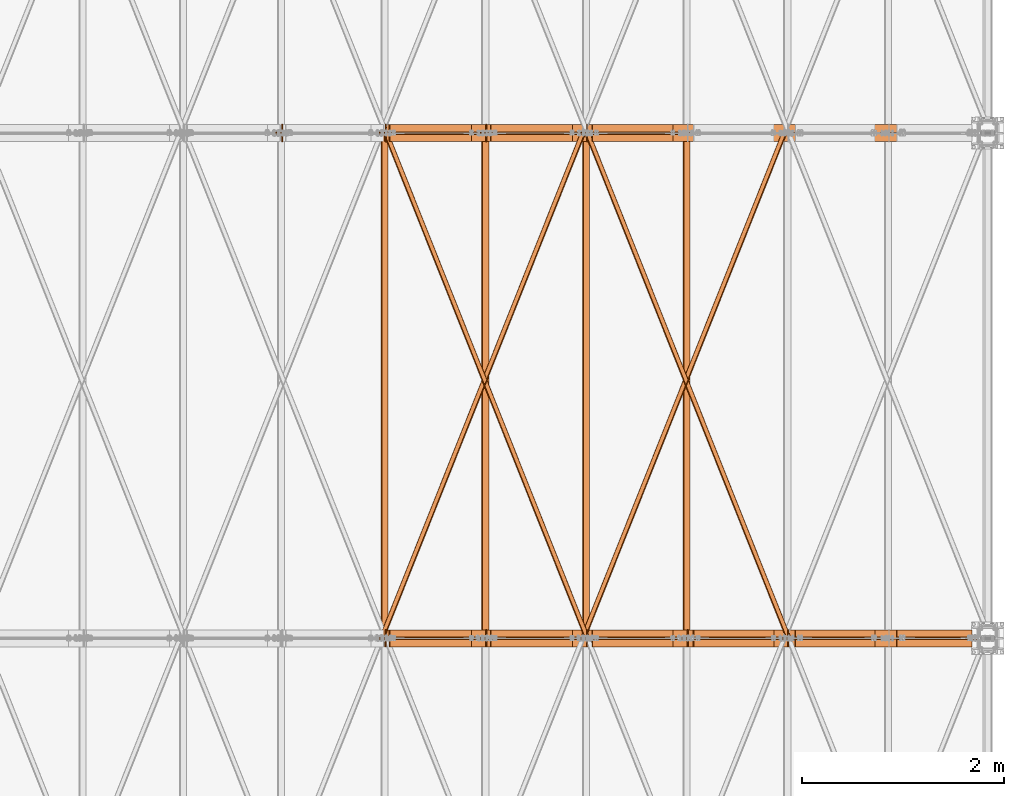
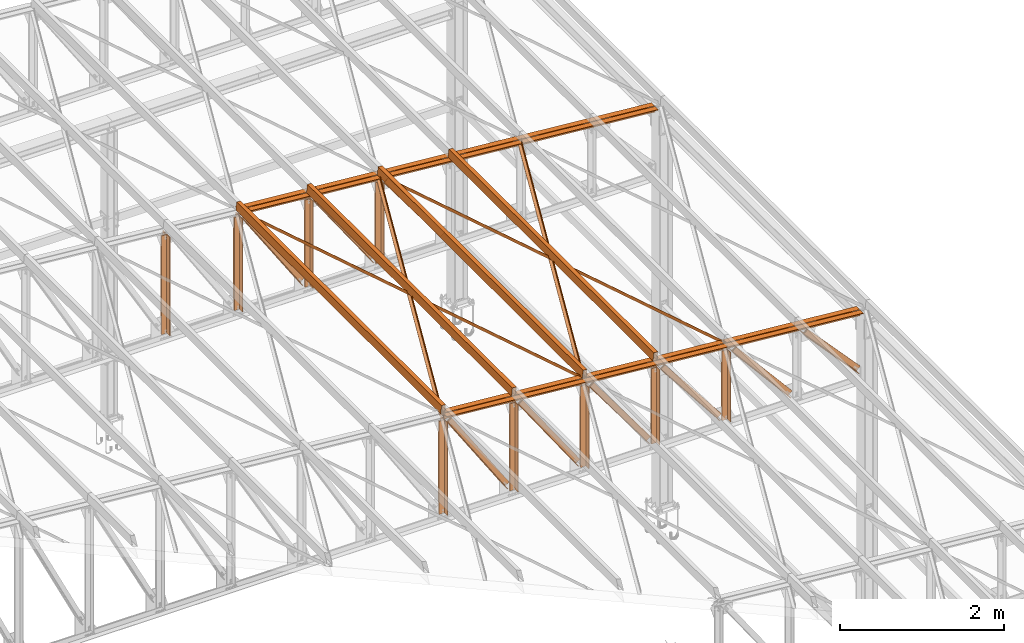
# One storey, part 241 of 251: 48 proxies.
"""IFC4 building model written with IfcOpenShell, lengths in metres."""

from ifc_helpers import new_model, si_unit, frame, frame_2d, origin_with_axes, origin_2d_with_axis, place, context, project, spatial, polyline, hollow_rectangle, i_section, l_section, outline, extrude, material, material_profile, profile_set, profile_usage, type_object, element, save


model = new_model("IFC4")

# Units and contexts
model_context = context("Model", 3, precision=1e-05, world=origin_with_axes())
ifc_project = project(units=[si_unit("LENGTHUNIT", "METRE"), si_unit("AREAUNIT", "SQUARE_METRE"), si_unit("VOLUMEUNIT", "CUBIC_METRE"), si_unit("MASSUNIT", "GRAM", prefix="KILO"), si_unit("TIMEUNIT", "SECOND"), si_unit("PLANEANGLEUNIT", "RADIAN"), si_unit("SOLIDANGLEUNIT", "STERADIAN"), si_unit("THERMODYNAMICTEMPERATUREUNIT", "DEGREE_CELSIUS")], contexts=[model_context])

# Site, building, storey
placement_1 = place(None, origin_with_axes())
site = spatial("IfcSite", under=ifc_project, at=placement_1, Name="Italia", CompositionType="ELEMENT")
building = spatial("IfcBuilding", under=site, at=placement_1, Name="Deposito", CompositionType="ELEMENT")
storey = spatial("IfcBuildingStorey", under=building, at=placement_1, Name="Storey 0", CompositionType="ELEMENT", Elevation=0.0)

# Proxies
ifc_material = material(Name="Acciaio", Category="Acciaio")
ifc_material_profile = material_profile(ifc_material, i_section(OverallWidth=0.2, OverallDepth=0.19, WebThickness=0.006, FlangeThickness=0.01, FilletRadius=0.018, at=origin_2d_with_axis()), Name="7 PILASTRO HEA200")
ifc_profile_set = profile_set([ifc_material_profile])
ifc_profile_usage_1 = profile_usage(ifc_profile_set, cardinal=2)
member_type_1 = type_object("IfcMemberType", Name="5 2L80x8", PredefinedType="MEMBER", material=ifc_profile_usage_1)
placement_2 = place(placement_1, origin_with_axes())
proxy_1_placement = place(placement_2, origin_with_axes())
element("IfcBuildingElementProxy", 1, at=proxy_1_placement, inside=storey, type_object=member_type_1, Name="230073", context=model_context, shape_type="SweptSolid", body=[
    extrude(outline(polyline([(0.0, 0.0), (0.0799999, 0.0), (0.0799999, -0.00800085), (0.00799942, -0.00800085), (0.00799942, -0.0800004), (0.0, -0.0800004), (0.0, 0.0)])), frame((14.0298, 10.005, 6.54493), z_axis=(0.99619472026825, 0.0, -0.087155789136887), x_axis=(0.0, 1.0, 0.0)), (0.0, 0.0, 1.0), 5.89033),
])
ifc_profile_usage_2 = profile_usage(ifc_profile_set, cardinal=2)
member_type_2 = type_object("IfcMemberType", Name="5 2L80x8", PredefinedType="MEMBER", material=ifc_profile_usage_2)
proxy_2_placement = place(placement_2, origin_with_axes())
element("IfcBuildingElementProxy", 2, at=proxy_2_placement, inside=storey, type_object=member_type_2, Name="230073", context=model_context, shape_type="SweptSolid", body=[
    extrude(outline(polyline([(0.0, 0.0), (-0.00799942, 0.0), (-0.00799942, 0.0719995), (-0.0799999, 0.0719995), (-0.0799999, 0.0800004), (0.0, 0.0800004), (0.0, 0.0)])), frame((14.0228, 9.995, 6.46523), z_axis=(0.99619472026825, 0.0, -0.087155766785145), x_axis=(0.0, 1.0, 0.0)), (0.0, 0.0, 1.0), 5.89033),
])
ifc_profile_usage_3 = profile_usage(ifc_profile_set, cardinal=1)
member_type_3 = type_object("IfcMemberType", Name="5 2L80x8", PredefinedType="MEMBER", material=ifc_profile_usage_3)
proxy_3_placement = place(placement_2, origin_with_axes())
element("IfcBuildingElementProxy", 3, at=proxy_3_placement, inside=storey, type_object=member_type_3, Name="100003", context=model_context, shape_type="SweptSolid", body=[
    extrude(outline(polyline([(0.0, 0.0), (-0.0799999, 0.0), (-0.0799999, 0.00799942), (-0.00799942, 0.00799942), (-0.00799942, 0.079998), (0.0, 0.079998), (0.0, 0.0)])), frame((19.0971, 9.995, 5.95199), z_axis=(0.675589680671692, 0.0, -0.737277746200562), x_axis=(0.0, 1.0, 0.0)), (0.0, 0.0, 1.0), 1.09364),
])
ifc_profile_usage_4 = profile_usage(ifc_profile_set, cardinal=1)
member_type_4 = type_object("IfcMemberType", Name="5 2L80x8", PredefinedType="MEMBER", material=ifc_profile_usage_4)
proxy_4_placement = place(placement_2, origin_with_axes())
element("IfcBuildingElementProxy", 4, at=proxy_4_placement, inside=storey, type_object=member_type_4, Name="100003", context=model_context, shape_type="SweptSolid", body=[
    extrude(outline(polyline([(0.0, 0.0), (0.00799942, 0.0), (0.00799942, -0.0719986), (0.0799999, -0.0719986), (0.0799999, -0.0799999), (0.0, -0.0799999), (0.0, 0.0)])), frame((19.1561, 10.005, 6.00604), z_axis=(0.675590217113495, 0.0, -0.737277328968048), x_axis=(0.0, 1.0, 0.0)), (0.0, 0.0, 1.0), 1.09364),
])
ifc_profile_usage_5 = profile_usage(ifc_profile_set, cardinal=1)
member_type_5 = type_object("IfcMemberType", Name="5 2L80x8", PredefinedType="MEMBER", material=ifc_profile_usage_5)
proxy_5_placement = place(placement_2, origin_with_axes())
element("IfcBuildingElementProxy", 5, at=proxy_5_placement, inside=storey, type_object=member_type_5, Name="110003", context=model_context, shape_type="SweptSolid", body=[
    extrude(outline(polyline([(0.0, 0.0), (-0.0799999, 0.0), (-0.0799999, 0.00799942), (-0.00799942, 0.00799942), (-0.00799942, 0.079998), (0.0, 0.079998), (0.0, 0.0)])), frame((18.0901, 9.995, 6.04221), z_axis=(0.646905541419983, 0.0, -0.762570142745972), x_axis=(0.0, 1.0, 0.0)), (0.0, 0.0, 1.0), 1.21365),
])
ifc_profile_usage_6 = profile_usage(ifc_profile_set, cardinal=1)
member_type_6 = type_object("IfcMemberType", Name="5 2L80x8", PredefinedType="MEMBER", material=ifc_profile_usage_6)
proxy_6_placement = place(placement_2, origin_with_axes())
element("IfcBuildingElementProxy", 6, at=proxy_6_placement, inside=storey, type_object=member_type_6, Name="110003", context=model_context, shape_type="SweptSolid", body=[
    extrude(outline(polyline([(0.0, 0.0), (0.00799942, 0.0), (0.00799942, -0.0720005), (0.0799999, -0.0720005), (0.0799999, -0.0799999), (0.0, -0.0799999), (0.0, 0.0)])), frame((18.1512, 10.005, 6.09396), z_axis=(0.646905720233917, 0.0, -0.762569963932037), x_axis=(0.0, 1.0, 0.0)), (0.0, 0.0, 1.0), 1.21365),
])
ifc_profile_usage_7 = profile_usage(ifc_profile_set, cardinal=1)
member_type_7 = type_object("IfcMemberType", Name="5 2L80x8", PredefinedType="MEMBER", material=ifc_profile_usage_7)
proxy_7_placement = place(placement_2, origin_with_axes())
element("IfcBuildingElementProxy", 7, at=proxy_7_placement, inside=storey, type_object=member_type_7, Name="45", context=model_context, shape_type="SweptSolid", body=[
    extrude(outline(polyline([(0.0, 0.0), (-0.0799999, 0.0), (-0.0799999, 0.00799942), (-0.00799942, 0.00799942), (-0.00799942, 0.0799999), (0.0, 0.0799999), (0.0, 0.0)])), frame((18.0301, 9.995, 5.06753), z_axis=(0.0, 0.0, 1.0), x_axis=(0.0, 1.0, 0.0)), (0.0, 0.0, 1.0), 1.03702),
])
ifc_profile_usage_8 = profile_usage(ifc_profile_set, cardinal=1)
member_type_8 = type_object("IfcMemberType", Name="5 2L80x8", PredefinedType="MEMBER", material=ifc_profile_usage_8)
proxy_8_placement = place(placement_2, origin_with_axes())
element("IfcBuildingElementProxy", 8, at=proxy_8_placement, inside=storey, type_object=member_type_8, Name="45", context=model_context, shape_type="SweptSolid", body=[
    extrude(outline(polyline([(0.0, 0.0), (0.00799942, 0.0), (0.00799942, -0.0720005), (0.0799999, -0.0720005), (0.0799999, -0.0799999), (0.0, -0.0799999), (0.0, 0.0)])), frame((17.9501, 10.005, 5.06753), z_axis=(0.0, 0.0, 1.0), x_axis=(0.0, 1.0, 0.0)), (0.0, 0.0, 1.0), 1.03702),
])
ifc_profile_usage_9 = profile_usage(ifc_profile_set, cardinal=1)
member_type_9 = type_object("IfcMemberType", Name="5 2L80x8", PredefinedType="MEMBER", material=ifc_profile_usage_9)
proxy_9_placement = place(placement_2, origin_with_axes())
element("IfcBuildingElementProxy", 9, at=proxy_9_placement, inside=storey, type_object=member_type_9, Name="120003", context=model_context, shape_type="SweptSolid", body=[
    extrude(outline(polyline([(0.0, 0.0), (-0.0799999, 0.0), (-0.0799999, 0.00799942), (-0.00799942, 0.00799942), (-0.00799942, 0.0799999), (0.0, 0.0799999), (0.0, 0.0)])), frame((17.0848, 9.995, 6.13218), z_axis=(0.619758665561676, 0.0, -0.784792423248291), x_axis=(0.0, 1.0, 0.0)), (0.0, 0.0, 1.0), 1.27867),
])
ifc_profile_usage_10 = profile_usage(ifc_profile_set, cardinal=1)
member_type_10 = type_object("IfcMemberType", Name="5 2L80x8", PredefinedType="MEMBER", material=ifc_profile_usage_10)
proxy_10_placement = place(placement_2, origin_with_axes())
element("IfcBuildingElementProxy", 10, at=proxy_10_placement, inside=storey, type_object=member_type_10, Name="120003", context=model_context, shape_type="SweptSolid", body=[
    extrude(outline(polyline([(0.0, 0.0), (0.00799942, 0.0), (0.00799942, -0.0720005), (0.0799999, -0.0720005), (0.0799999, -0.0799999), (0.0, -0.0799999), (0.0, 0.0)])), frame((17.1476, 10.005, 6.18176), z_axis=(0.619759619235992, 0.0, -0.784791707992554), x_axis=(0.0, 1.0, 0.0)), (0.0, 0.0, 1.0), 1.27867),
])
ifc_profile_usage_11 = profile_usage(ifc_profile_set, cardinal=1)
member_type_11 = type_object("IfcMemberType", Name="5 2L80x8", PredefinedType="MEMBER", material=ifc_profile_usage_11)
proxy_11_placement = place(placement_2, origin_with_axes())
element("IfcBuildingElementProxy", 11, at=proxy_11_placement, inside=storey, type_object=member_type_11, Name="44", context=model_context, shape_type="SweptSolid", body=[
    extrude(outline(polyline([(0.0, 0.0), (-0.0799999, 0.0), (-0.0799999, 0.00799942), (-0.00799942, 0.00799942), (-0.00799942, 0.0799999), (0.0, 0.0799999), (0.0, 0.0)])), frame((17.0339, 9.995, 5.06753), z_axis=(0.0, 0.0, 1.0), x_axis=(0.0, 1.0, 0.0)), (0.0, 0.0, 1.0), 1.12417),
])
ifc_profile_usage_12 = profile_usage(ifc_profile_set, cardinal=1)
member_type_12 = type_object("IfcMemberType", Name="5 2L80x8", PredefinedType="MEMBER", material=ifc_profile_usage_12)
proxy_12_placement = place(placement_2, origin_with_axes())
element("IfcBuildingElementProxy", 12, at=proxy_12_placement, inside=storey, type_object=member_type_12, Name="44", context=model_context, shape_type="SweptSolid", body=[
    extrude(outline(polyline([(0.0, 0.0), (0.00799942, 0.0), (0.00799942, -0.0720005), (0.0799999, -0.0720005), (0.0799999, -0.0799999), (0.0, -0.0799999), (0.0, 0.0)])), frame((16.9539, 10.005, 5.06753), z_axis=(0.0, 0.0, 1.0), x_axis=(0.0, 1.0, 0.0)), (0.0, 0.0, 1.0), 1.12417),
])
ifc_profile_usage_13 = profile_usage(ifc_profile_set, cardinal=1)
member_type_13 = type_object("IfcMemberType", Name="5 2L80x8", PredefinedType="MEMBER", material=ifc_profile_usage_13)
proxy_13_placement = place(placement_2, origin_with_axes())
element("IfcBuildingElementProxy", 13, at=proxy_13_placement, inside=storey, type_object=member_type_13, Name="130003", context=model_context, shape_type="SweptSolid", body=[
    extrude(outline(polyline([(0.0, 0.0), (-0.0799999, 0.0), (-0.0799999, 0.00800133), (-0.00799942, 0.00800133), (-0.00799942, 0.0800018), (0.0, 0.0800018), (0.0, 0.0)])), frame((16.0808, 9.995, 6.22193), z_axis=(0.594154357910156, 0.0, -0.804351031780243), x_axis=(0.0, 1.0, 0.0)), (0.0, 0.0, 1.0), 1.3443),
])
ifc_profile_usage_14 = profile_usage(ifc_profile_set, cardinal=1)
member_type_14 = type_object("IfcMemberType", Name="5 2L80x8", PredefinedType="MEMBER", material=ifc_profile_usage_14)
proxy_14_placement = place(placement_2, origin_with_axes())
element("IfcBuildingElementProxy", 14, at=proxy_14_placement, inside=storey, type_object=member_type_14, Name="130003", context=model_context, shape_type="SweptSolid", body=[
    extrude(outline(polyline([(0.0, 0.0), (0.00799942, 0.0), (0.00799942, -0.0720005), (0.0799999, -0.0720005), (0.0799999, -0.0799999), (0.0, -0.0799999), (0.0, 0.0)])), frame((16.1452, 10.005, 6.26946), z_axis=(0.594154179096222, 0.0, -0.804351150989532), x_axis=(0.0, 1.0, 0.0)), (0.0, 0.0, 1.0), 1.3443),
])
ifc_profile_usage_15 = profile_usage(ifc_profile_set, cardinal=1)
member_type_15 = type_object("IfcMemberType", Name="5 2L80x8", PredefinedType="MEMBER", material=ifc_profile_usage_15)
proxy_15_placement = place(placement_2, origin_with_axes())
element("IfcBuildingElementProxy", 15, at=proxy_15_placement, inside=storey, type_object=member_type_15, Name="43", context=model_context, shape_type="SweptSolid", body=[
    extrude(outline(polyline([(0.0, 0.0), (-0.0799999, 0.0), (-0.0799999, 0.00799942), (-0.00799942, 0.00799942), (-0.00799942, 0.079999), (0.0, 0.079999), (0.0, 0.0)])), frame((16.0377, 9.995, 5.06753), z_axis=(0.0, 0.0, 1.0), x_axis=(0.0, 1.0, 0.0)), (0.0, 0.0, 1.0), 1.21133),
])
ifc_profile_usage_16 = profile_usage(ifc_profile_set, cardinal=1)
member_type_16 = type_object("IfcMemberType", Name="5 2L80x8", PredefinedType="MEMBER", material=ifc_profile_usage_16)
proxy_16_placement = place(placement_2, origin_with_axes())
element("IfcBuildingElementProxy", 16, at=proxy_16_placement, inside=storey, type_object=member_type_16, Name="43", context=model_context, shape_type="SweptSolid", body=[
    extrude(outline(polyline([(0.0, 0.0), (0.00799942, 0.0), (0.00799942, -0.0719995), (0.0799999, -0.0719995), (0.0799999, -0.079999), (0.0, -0.079999), (0.0, 0.0)])), frame((15.9577, 10.005, 5.06753), z_axis=(0.0, 0.0, 1.0), x_axis=(0.0, 1.0, 0.0)), (0.0, 0.0, 1.0), 1.21133),
])
ifc_profile_usage_17 = profile_usage(ifc_profile_set, cardinal=1)
member_type_17 = type_object("IfcMemberType", Name="5 2L80x8", PredefinedType="MEMBER", material=ifc_profile_usage_17)
proxy_17_placement = place(placement_2, origin_with_axes())
element("IfcBuildingElementProxy", 17, at=proxy_17_placement, inside=storey, type_object=member_type_17, Name="140003", context=model_context, shape_type="SweptSolid", body=[
    extrude(outline(polyline([(0.0, 0.0), (-0.0799999, 0.0), (-0.0799999, 0.00800037), (-0.00799942, 0.00800037), (-0.00799942, 0.0800018), (0.0, 0.0800018), (0.0, 0.0)])), frame((15.0779, 9.995, 6.31149), z_axis=(0.570057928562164, 0.0, -0.821604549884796), x_axis=(0.0, 1.0, 0.0)), (0.0, 0.0, 1.0), 1.41056),
])
ifc_profile_usage_18 = profile_usage(ifc_profile_set, cardinal=1)
member_type_18 = type_object("IfcMemberType", Name="5 2L80x8", PredefinedType="MEMBER", material=ifc_profile_usage_18)
proxy_18_placement = place(placement_2, origin_with_axes())
element("IfcBuildingElementProxy", 18, at=proxy_18_placement, inside=storey, type_object=member_type_18, Name="140003", context=model_context, shape_type="SweptSolid", body=[
    extrude(outline(polyline([(0.0, 0.0), (0.00799942, 0.0), (0.00799942, -0.0720024), (0.0799999, -0.0720024), (0.0799999, -0.0800018), (0.0, -0.0800018), (0.0, 0.0)])), frame((15.1436, 10.005, 6.35709), z_axis=(0.570057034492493, 0.0, -0.821605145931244), x_axis=(0.0, 1.0, 0.0)), (0.0, 0.0, 1.0), 1.41056),
])
ifc_profile_usage_19 = profile_usage(ifc_profile_set, cardinal=1)
member_type_19 = type_object("IfcMemberType", Name="5 2L80x8", PredefinedType="MEMBER", material=ifc_profile_usage_19)
proxy_19_placement = place(placement_2, origin_with_axes())
element("IfcBuildingElementProxy", 19, at=proxy_19_placement, inside=storey, type_object=member_type_19, Name="42", context=model_context, shape_type="SweptSolid", body=[
    extrude(outline(polyline([(0.0, 0.0), (-0.0799999, 0.0), (-0.0799999, 0.00800037), (-0.00799942, 0.00800037), (-0.00799942, 0.0799999), (0.0, 0.0799999), (0.0, 0.0)])), frame((15.0415, 9.995, 5.06753), z_axis=(0.0, 0.0, 1.0), x_axis=(0.0, 1.0, 0.0)), (0.0, 0.0, 1.0), 1.29848),
])
ifc_profile_usage_20 = profile_usage(ifc_profile_set, cardinal=1)
member_type_20 = type_object("IfcMemberType", Name="5 2L80x8", PredefinedType="MEMBER", material=ifc_profile_usage_20)
proxy_20_placement = place(placement_2, origin_with_axes())
element("IfcBuildingElementProxy", 20, at=proxy_20_placement, inside=storey, type_object=member_type_20, Name="42", context=model_context, shape_type="SweptSolid", body=[
    extrude(outline(polyline([(0.0, 0.0), (0.00799942, 0.0), (0.00799942, -0.0719995), (0.0799999, -0.0719995), (0.0799999, -0.0799999), (0.0, -0.0799999), (0.0, 0.0)])), frame((14.9615, 10.005, 5.06753), z_axis=(0.0, 0.0, 1.0), x_axis=(0.0, 1.0, 0.0)), (0.0, 0.0, 1.0), 1.29848),
])
ifc_profile_usage_21 = profile_usage(ifc_profile_set, cardinal=1)
member_type_21 = type_object("IfcMemberType", Name="5 2L80x8", PredefinedType="MEMBER", material=ifc_profile_usage_21)
proxy_21_placement = place(placement_2, origin_with_axes())
element("IfcBuildingElementProxy", 21, at=proxy_21_placement, inside=storey, type_object=member_type_21, Name="150003", context=model_context, shape_type="SweptSolid", body=[
    extrude(outline(polyline([(0.0, 0.0), (-0.0799999, 0.0), (-0.0799999, 0.00800037), (-0.00799942, 0.00800037), (-0.00799942, 0.0800018), (0.0, 0.0800018), (0.0, 0.0)])), frame((14.0758, 9.995, 6.40086), z_axis=(0.547415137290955, 0.0, -0.836861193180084), x_axis=(0.0, 1.0, 0.0)), (0.0, 0.0, 1.0), 1.47743),
])
ifc_profile_usage_22 = profile_usage(ifc_profile_set, cardinal=1)
member_type_22 = type_object("IfcMemberType", Name="5 2L80x8", PredefinedType="MEMBER", material=ifc_profile_usage_22)
proxy_22_placement = place(placement_2, origin_with_axes())
element("IfcBuildingElementProxy", 22, at=proxy_22_placement, inside=storey, type_object=member_type_22, Name="150003", context=model_context, shape_type="SweptSolid", body=[
    extrude(outline(polyline([(0.0, 0.0), (0.00799942, 0.0), (0.00799942, -0.0720005), (0.0799999, -0.0720005), (0.0799999, -0.0800009), (0.0, -0.0800009), (0.0, 0.0)])), frame((14.1427, 10.005, 6.44465), z_axis=(0.547414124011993, 0.0, -0.836861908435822), x_axis=(0.0, 1.0, 0.0)), (0.0, 0.0, 1.0), 1.47743),
])
ifc_profile_usage_23 = profile_usage(ifc_profile_set, cardinal=1)
member_type_23 = type_object("IfcMemberType", Name="5 2L80x8", PredefinedType="MEMBER", material=ifc_profile_usage_23)
proxy_23_placement = place(placement_2, origin_with_axes())
element("IfcBuildingElementProxy", 23, at=proxy_23_placement, inside=storey, type_object=member_type_23, Name="41", context=model_context, shape_type="SweptSolid", body=[
    extrude(outline(polyline([(0.0, 0.0), (-0.0799999, 0.0), (-0.0799999, 0.00800037), (-0.00799942, 0.00800037), (-0.00799942, 0.0799999), (0.0, 0.0799999), (0.0, 0.0)])), frame((14.0453, 9.995, 5.06753), z_axis=(0.0, 0.0, 1.0), x_axis=(0.0, 1.0, 0.0)), (0.0, 0.0, 1.0), 1.38564),
])
ifc_profile_usage_24 = profile_usage(ifc_profile_set, cardinal=1)
member_type_24 = type_object("IfcMemberType", Name="5 2L80x8", PredefinedType="MEMBER", material=ifc_profile_usage_24)
proxy_24_placement = place(placement_2, origin_with_axes())
element("IfcBuildingElementProxy", 24, at=proxy_24_placement, inside=storey, type_object=member_type_24, Name="41", context=model_context, shape_type="SweptSolid", body=[
    extrude(outline(polyline([(0.0, 0.0), (0.00799942, 0.0), (0.00799942, -0.0719995), (0.0799999, -0.0719995), (0.0799999, -0.0799999), (0.0, -0.0799999), (0.0, 0.0)])), frame((13.9653, 10.005, 5.06753), z_axis=(0.0, 0.0, 1.0), x_axis=(0.0, 1.0, 0.0)), (0.0, 0.0, 1.0), 1.38564),
])
ifc_profile_usage_25 = profile_usage(ifc_profile_set, cardinal=2)
member_type_25 = type_object("IfcMemberType", Name="5 2L80x8", PredefinedType="MEMBER", material=ifc_profile_usage_25)
proxy_25_placement = place(placement_2, origin_with_axes())
element("IfcBuildingElementProxy", 25, at=proxy_25_placement, inside=storey, type_object=member_type_25, Name="230074", context=model_context, shape_type="SweptSolid", body=[
    extrude(outline(polyline([(0.0, 0.0), (0.0799999, 0.0), (0.0799999, -0.00800085), (0.00799942, -0.00800085), (0.00799942, -0.0800004), (0.0, -0.0800004), (0.0, 0.0)])), frame((14.0298, 15.005, 6.54493), z_axis=(0.99619472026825, 0.0, -0.087155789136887), x_axis=(0.0, 1.0, 0.0)), (0.0, 0.0, 1.0), 5.89033),
])
ifc_profile_usage_26 = profile_usage(ifc_profile_set, cardinal=2)
member_type_26 = type_object("IfcMemberType", Name="5 2L80x8", PredefinedType="MEMBER", material=ifc_profile_usage_26)
proxy_26_placement = place(placement_2, origin_with_axes())
element("IfcBuildingElementProxy", 26, at=proxy_26_placement, inside=storey, type_object=member_type_26, Name="230074", context=model_context, shape_type="SweptSolid", body=[
    extrude(outline(polyline([(0.0, 0.0), (-0.00799942, 0.0), (-0.00799942, 0.0719995), (-0.0799999, 0.0719995), (-0.0799999, 0.0800004), (0.0, 0.0800004), (0.0, 0.0)])), frame((14.0228, 14.995, 6.46523), z_axis=(0.99619472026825, 0.0, -0.087155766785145), x_axis=(0.0, 1.0, 0.0)), (0.0, 0.0, 1.0), 5.89033),
])
ifc_profile_usage_27 = profile_usage(ifc_profile_set, cardinal=1)
member_type_27 = type_object("IfcMemberType", Name="5 2L80x8", PredefinedType="MEMBER", material=ifc_profile_usage_27)
proxy_27_placement = place(placement_2, origin_with_axes())
element("IfcBuildingElementProxy", 27, at=proxy_27_placement, inside=storey, type_object=member_type_27, Name="130004", context=model_context, shape_type="SweptSolid", body=[
    extrude(outline(polyline([(0.0, 0.0), (-0.0799999, 0.0), (-0.0799999, 0.00800133), (-0.00799942, 0.00800133), (-0.00799942, 0.0800018), (0.0, 0.0800018), (0.0, 0.0)])), frame((16.0808, 14.995, 6.22193), z_axis=(0.594154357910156, 0.0, -0.804351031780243), x_axis=(0.0, 1.0, 0.0)), (0.0, 0.0, 1.0), 1.3443),
])
ifc_profile_usage_28 = profile_usage(ifc_profile_set, cardinal=1)
member_type_28 = type_object("IfcMemberType", Name="5 2L80x8", PredefinedType="MEMBER", material=ifc_profile_usage_28)
proxy_28_placement = place(placement_2, origin_with_axes())
element("IfcBuildingElementProxy", 28, at=proxy_28_placement, inside=storey, type_object=member_type_28, Name="130004", context=model_context, shape_type="SweptSolid", body=[
    extrude(outline(polyline([(0.0, 0.0), (0.00799942, 0.0), (0.00799942, -0.0720005), (0.0799999, -0.0720005), (0.0799999, -0.0799999), (0.0, -0.0799999), (0.0, 0.0)])), frame((16.1452, 15.005, 6.26946), z_axis=(0.594154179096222, 0.0, -0.804351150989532), x_axis=(0.0, 1.0, 0.0)), (0.0, 0.0, 1.0), 1.3443),
])
ifc_profile_usage_29 = profile_usage(ifc_profile_set, cardinal=1)
member_type_29 = type_object("IfcMemberType", Name="5 2L80x8", PredefinedType="MEMBER", material=ifc_profile_usage_29)
proxy_29_placement = place(placement_2, origin_with_axes())
element("IfcBuildingElementProxy", 29, at=proxy_29_placement, inside=storey, type_object=member_type_29, Name="58", context=model_context, shape_type="SweptSolid", body=[
    extrude(outline(polyline([(0.0, 0.0), (-0.0799999, 0.0), (-0.0799999, 0.00799942), (-0.00799942, 0.00799942), (-0.00799942, 0.079999), (0.0, 0.079999), (0.0, 0.0)])), frame((16.0377, 14.995, 5.06753), z_axis=(0.0, 0.0, 1.0), x_axis=(0.0, 1.0, 0.0)), (0.0, 0.0, 1.0), 1.21133),
])
ifc_profile_usage_30 = profile_usage(ifc_profile_set, cardinal=1)
member_type_30 = type_object("IfcMemberType", Name="5 2L80x8", PredefinedType="MEMBER", material=ifc_profile_usage_30)
proxy_30_placement = place(placement_2, origin_with_axes())
element("IfcBuildingElementProxy", 30, at=proxy_30_placement, inside=storey, type_object=member_type_30, Name="58", context=model_context, shape_type="SweptSolid", body=[
    extrude(outline(polyline([(0.0, 0.0), (0.00799942, 0.0), (0.00799942, -0.0719995), (0.0799999, -0.0719995), (0.0799999, -0.079999), (0.0, -0.079999), (0.0, 0.0)])), frame((15.9577, 15.005, 5.06753), z_axis=(0.0, 0.0, 1.0), x_axis=(0.0, 1.0, 0.0)), (0.0, 0.0, 1.0), 1.21133),
])
ifc_profile_usage_31 = profile_usage(ifc_profile_set, cardinal=1)
member_type_31 = type_object("IfcMemberType", Name="5 2L80x8", PredefinedType="MEMBER", material=ifc_profile_usage_31)
proxy_31_placement = place(placement_2, origin_with_axes())
element("IfcBuildingElementProxy", 31, at=proxy_31_placement, inside=storey, type_object=member_type_31, Name="140004", context=model_context, shape_type="SweptSolid", body=[
    extrude(outline(polyline([(0.0, 0.0), (-0.0799999, 0.0), (-0.0799999, 0.00800037), (-0.00799942, 0.00800037), (-0.00799942, 0.0800018), (0.0, 0.0800018), (0.0, 0.0)])), frame((15.0779, 14.995, 6.31149), z_axis=(0.570057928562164, 0.0, -0.821604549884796), x_axis=(0.0, 1.0, 0.0)), (0.0, 0.0, 1.0), 1.41056),
])
ifc_profile_usage_32 = profile_usage(ifc_profile_set, cardinal=1)
member_type_32 = type_object("IfcMemberType", Name="5 2L80x8", PredefinedType="MEMBER", material=ifc_profile_usage_32)
proxy_32_placement = place(placement_2, origin_with_axes())
element("IfcBuildingElementProxy", 32, at=proxy_32_placement, inside=storey, type_object=member_type_32, Name="140004", context=model_context, shape_type="SweptSolid", body=[
    extrude(outline(polyline([(0.0, 0.0), (0.00799942, 0.0), (0.00799942, -0.0720024), (0.0799999, -0.0720024), (0.0799999, -0.0800018), (0.0, -0.0800018), (0.0, 0.0)])), frame((15.1436, 15.005, 6.35709), z_axis=(0.570057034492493, 0.0, -0.821605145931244), x_axis=(0.0, 1.0, 0.0)), (0.0, 0.0, 1.0), 1.41056),
])
ifc_profile_usage_33 = profile_usage(ifc_profile_set, cardinal=1)
member_type_33 = type_object("IfcMemberType", Name="5 2L80x8", PredefinedType="MEMBER", material=ifc_profile_usage_33)
proxy_33_placement = place(placement_2, origin_with_axes())
element("IfcBuildingElementProxy", 33, at=proxy_33_placement, inside=storey, type_object=member_type_33, Name="57", context=model_context, shape_type="SweptSolid", body=[
    extrude(outline(polyline([(0.0, 0.0), (-0.0799999, 0.0), (-0.0799999, 0.00800037), (-0.00799942, 0.00800037), (-0.00799942, 0.0799999), (0.0, 0.0799999), (0.0, 0.0)])), frame((15.0415, 14.995, 5.06753), z_axis=(0.0, 0.0, 1.0), x_axis=(0.0, 1.0, 0.0)), (0.0, 0.0, 1.0), 1.29848),
])
ifc_profile_usage_34 = profile_usage(ifc_profile_set, cardinal=1)
member_type_34 = type_object("IfcMemberType", Name="5 2L80x8", PredefinedType="MEMBER", material=ifc_profile_usage_34)
proxy_34_placement = place(placement_2, origin_with_axes())
element("IfcBuildingElementProxy", 34, at=proxy_34_placement, inside=storey, type_object=member_type_34, Name="57", context=model_context, shape_type="SweptSolid", body=[
    extrude(outline(polyline([(0.0, 0.0), (0.00799942, 0.0), (0.00799942, -0.0719995), (0.0799999, -0.0719995), (0.0799999, -0.0799999), (0.0, -0.0799999), (0.0, 0.0)])), frame((14.9615, 15.005, 5.06753), z_axis=(0.0, 0.0, 1.0), x_axis=(0.0, 1.0, 0.0)), (0.0, 0.0, 1.0), 1.29848),
])
ifc_profile_usage_35 = profile_usage(ifc_profile_set, cardinal=1)
member_type_35 = type_object("IfcMemberType", Name="5 2L80x8", PredefinedType="MEMBER", material=ifc_profile_usage_35)
proxy_35_placement = place(placement_2, origin_with_axes())
element("IfcBuildingElementProxy", 35, at=proxy_35_placement, inside=storey, type_object=member_type_35, Name="150004", context=model_context, shape_type="SweptSolid", body=[
    extrude(outline(polyline([(0.0, 0.0), (-0.0799999, 0.0), (-0.0799999, 0.00800037), (-0.00799942, 0.00800037), (-0.00799942, 0.0800018), (0.0, 0.0800018), (0.0, 0.0)])), frame((14.0758, 14.995, 6.40086), z_axis=(0.547415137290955, 0.0, -0.836861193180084), x_axis=(0.0, 1.0, 0.0)), (0.0, 0.0, 1.0), 1.47743),
])
ifc_profile_usage_36 = profile_usage(ifc_profile_set, cardinal=1)
member_type_36 = type_object("IfcMemberType", Name="5 2L80x8", PredefinedType="MEMBER", material=ifc_profile_usage_36)
proxy_36_placement = place(placement_2, origin_with_axes())
element("IfcBuildingElementProxy", 36, at=proxy_36_placement, inside=storey, type_object=member_type_36, Name="150004", context=model_context, shape_type="SweptSolid", body=[
    extrude(outline(polyline([(0.0, 0.0), (0.00799942, 0.0), (0.00799942, -0.0720005), (0.0799999, -0.0720005), (0.0799999, -0.0800009), (0.0, -0.0800009), (0.0, 0.0)])), frame((14.1427, 15.005, 6.44465), z_axis=(0.547414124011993, 0.0, -0.836861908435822), x_axis=(0.0, 1.0, 0.0)), (0.0, 0.0, 1.0), 1.47743),
])
ifc_profile_usage_37 = profile_usage(ifc_profile_set, cardinal=1)
member_type_37 = type_object("IfcMemberType", Name="5 2L80x8", PredefinedType="MEMBER", material=ifc_profile_usage_37)
proxy_37_placement = place(placement_2, origin_with_axes())
element("IfcBuildingElementProxy", 37, at=proxy_37_placement, inside=storey, type_object=member_type_37, Name="56", context=model_context, shape_type="SweptSolid", body=[
    extrude(outline(polyline([(0.0, 0.0), (-0.0799999, 0.0), (-0.0799999, 0.00800037), (-0.00799942, 0.00800037), (-0.00799942, 0.0799999), (0.0, 0.0799999), (0.0, 0.0)])), frame((14.0453, 14.995, 5.06753), z_axis=(0.0, 0.0, 1.0), x_axis=(0.0, 1.0, 0.0)), (0.0, 0.0, 1.0), 1.38564),
])
ifc_profile_usage_38 = profile_usage(ifc_profile_set, cardinal=1)
member_type_38 = type_object("IfcMemberType", Name="5 2L80x8", PredefinedType="MEMBER", material=ifc_profile_usage_38)
proxy_38_placement = place(placement_2, origin_with_axes())
element("IfcBuildingElementProxy", 38, at=proxy_38_placement, inside=storey, type_object=member_type_38, Name="56", context=model_context, shape_type="SweptSolid", body=[
    extrude(outline(polyline([(0.0, 0.0), (0.00799942, 0.0), (0.00799942, -0.0719995), (0.0799999, -0.0719995), (0.0799999, -0.0799999), (0.0, -0.0799999), (0.0, 0.0)])), frame((13.9653, 15.005, 5.06753), z_axis=(0.0, 0.0, 1.0), x_axis=(0.0, 1.0, 0.0)), (0.0, 0.0, 1.0), 1.38564),
])
ifc_profile_usage_39 = profile_usage(ifc_profile_set, cardinal=1)
member_type_39 = type_object("IfcMemberType", Name="5 2L80x8", PredefinedType="MEMBER", material=ifc_profile_usage_39)
proxy_39_placement = place(placement_2, origin_with_axes())
element("IfcBuildingElementProxy", 39, at=proxy_39_placement, inside=storey, type_object=member_type_39, Name="55", context=model_context, shape_type="SweptSolid", body=[
    extrude(outline(polyline([(0.0, 0.0), (-0.0799999, 0.0), (-0.0799999, 0.00800037), (-0.00799942, 0.00800037), (-0.00799942, 0.0799999), (0.0, 0.0799999), (0.0, 0.0)])), frame((13.0225, 14.995, 5.06753), z_axis=(0.0, 0.0, 1.0), x_axis=(0.0, 1.0, 0.0)), (0.0, 0.0, 1.0), 1.47286),
])
ifc_profile_usage_40 = profile_usage(ifc_profile_set, cardinal=1)
member_type_40 = type_object("IfcMemberType", Name="5 2L80x8", PredefinedType="MEMBER", material=ifc_profile_usage_40)
proxy_40_placement = place(placement_2, origin_with_axes())
element("IfcBuildingElementProxy", 40, at=proxy_40_placement, inside=storey, type_object=member_type_40, Name="55", context=model_context, shape_type="SweptSolid", body=[
    extrude(outline(polyline([(0.0, 0.0), (0.00799942, 0.0), (0.00799942, -0.0719995), (0.0799999, -0.0719995), (0.0799999, -0.0799999), (0.0, -0.0799999), (0.0, 0.0)])), frame((12.9425, 15.005, 5.06753), z_axis=(0.0, 0.0, 1.0), x_axis=(0.0, 1.0, 0.0)), (0.0, 0.0, 1.0), 1.47286),
])
ifc_profile_usage_41 = profile_usage(ifc_profile_set, cardinal=8)
member_type_41 = type_object("IfcMemberType", Name="1 RHS120x60x8", PredefinedType="MEMBER", material=ifc_profile_usage_41)
proxy_41_placement = place(placement_2, origin_with_axes())
element("IfcBuildingElementProxy", 41, at=proxy_41_placement, inside=storey, type_object=member_type_41, Name="150029", context=model_context, shape_type="SweptSolid", body=[
    extrude(hollow_rectangle(XDim=0.06, YDim=0.12, WallThickness=0.008, at=frame_2d((0.0, 0.0), x_axis=(0.996194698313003, 0.087155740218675))), frame((14.03, 10.0, 6.60517), z_axis=(0.0, 1.0, 0.0), x_axis=(-1.0, 0.0, 0.0)), (0.0, 0.0, 1.0), 5.0),
])
ifc_profile_usage_42 = profile_usage(ifc_profile_set, cardinal=8)
member_type_42 = type_object("IfcMemberType", Name="1 RHS120x60x8", PredefinedType="MEMBER", material=ifc_profile_usage_42)
proxy_42_placement = place(placement_2, origin_with_axes())
element("IfcBuildingElementProxy", 42, at=proxy_42_placement, inside=storey, type_object=member_type_42, Name="130032", context=model_context, shape_type="SweptSolid", body=[
    extrude(hollow_rectangle(XDim=0.06, YDim=0.12, WallThickness=0.008, at=frame_2d((0.0, 0.0), x_axis=(0.996194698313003, 0.087155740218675))), frame((16.0224, 10.0, 6.43086), z_axis=(0.0, 1.0, 0.0), x_axis=(-1.0, 0.0, 0.0)), (0.0, 0.0, 1.0), 5.0),
])
ifc_profile_usage_43 = profile_usage(ifc_profile_set, cardinal=8)
member_type_43 = type_object("IfcMemberType", Name="1 RHS120x60x8", PredefinedType="MEMBER", material=ifc_profile_usage_43)
proxy_43_placement = place(placement_2, origin_with_axes())
element("IfcBuildingElementProxy", 43, at=proxy_43_placement, inside=storey, type_object=member_type_43, Name="140030", context=model_context, shape_type="SweptSolid", body=[
    extrude(hollow_rectangle(XDim=0.06, YDim=0.12, WallThickness=0.008, at=frame_2d((0.0, 0.0), x_axis=(0.996194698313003, 0.087155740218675))), frame((15.0262, 10.0, 6.51801), z_axis=(0.0, 1.0, 0.0), x_axis=(-1.0, 0.0, 0.0)), (0.0, 0.0, 1.0), 5.0),
])
ifc_profile_usage_44 = profile_usage(ifc_profile_set, cardinal=8)
member_type_44 = type_object("IfcMemberType", Name="1 RHS120x60x8", PredefinedType="MEMBER", material=ifc_profile_usage_44)
proxy_44_placement = place(placement_2, origin_with_axes())
element("IfcBuildingElementProxy", 44, at=proxy_44_placement, inside=storey, type_object=member_type_44, Name="120033", context=model_context, shape_type="SweptSolid", body=[
    extrude(hollow_rectangle(XDim=0.06, YDim=0.12, WallThickness=0.008, at=frame_2d((0.0, 0.0), x_axis=(0.996194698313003, 0.087155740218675))), frame((17.0186, 10.0, 6.3437), z_axis=(0.0, 1.0, 0.0), x_axis=(-1.0, 0.0, 0.0)), (0.0, 0.0, 1.0), 5.0),
])
ifc_profile_usage_45 = profile_usage(ifc_profile_set, cardinal=5)
member_type_45 = type_object("IfcMemberType", Name="11 CONTROVENTI COPERTURA L50x5", PredefinedType="MEMBER", material=ifc_profile_usage_45)
proxy_45_placement = place(placement_2, origin_with_axes())
element("IfcBuildingElementProxy", 45, at=proxy_45_placement, inside=storey, type_object=member_type_45, Name="190055", context=model_context, shape_type="SweptSolid", body=[
    extrude(l_section(Depth=0.05, Width=0.05, Thickness=0.005, FilletRadius=0.007, EdgeRadius=0.0035, at=origin_2d_with_axis()), frame((14.0045, 10.0073, 6.54292), z_axis=(0.369977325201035, 0.928476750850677, -0.032368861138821), x_axis=(-0.928963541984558, 0.370171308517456, 0.0)), (0.0, 0.0, 1.0), 5.38516),
])
ifc_profile_usage_46 = profile_usage(ifc_profile_set, cardinal=5)
member_type_46 = type_object("IfcMemberType", Name="11 CONTROVENTI COPERTURA L50x5", PredefinedType="MEMBER", material=ifc_profile_usage_46)
proxy_46_placement = place(placement_2, origin_with_axes())
element("IfcBuildingElementProxy", 46, at=proxy_46_placement, inside=storey, type_object=member_type_46, Name="150058", context=model_context, shape_type="SweptSolid", body=[
    extrude(l_section(Depth=0.05, Width=0.05, Thickness=0.005, FilletRadius=0.007, EdgeRadius=0.0035, at=origin_2d_with_axis()), frame((16.0338, 15.0068, 6.36861), z_axis=(0.369977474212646, -0.928476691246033, -0.032368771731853), x_axis=(0.928963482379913, 0.370171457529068, 0.0)), (0.0, 0.0, 1.0), 5.38516),
])
ifc_profile_usage_47 = profile_usage(ifc_profile_set, cardinal=5)
member_type_47 = type_object("IfcMemberType", Name="11 CONTROVENTI COPERTURA L50x5", PredefinedType="MEMBER", material=ifc_profile_usage_47)
proxy_47_placement = place(placement_2, origin_with_axes())
element("IfcBuildingElementProxy", 47, at=proxy_47_placement, inside=storey, type_object=member_type_47, Name="170052", context=model_context, shape_type="SweptSolid", body=[
    extrude(l_section(Depth=0.05, Width=0.05, Thickness=0.005, FilletRadius=0.007, EdgeRadius=0.0035, at=origin_2d_with_axis()), frame((15.9969, 10.0073, 6.36861), z_axis=(0.369977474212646, 0.928476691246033, -0.032368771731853), x_axis=(-0.928963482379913, 0.370171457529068, 0.0)), (0.0, 0.0, 1.0), 5.38516),
])
ifc_profile_usage_48 = profile_usage(ifc_profile_set, cardinal=5)
member_type_48 = type_object("IfcMemberType", Name="11 CONTROVENTI COPERTURA L50x5", PredefinedType="MEMBER", material=ifc_profile_usage_48)
proxy_48_placement = place(placement_2, origin_with_axes())
element("IfcBuildingElementProxy", 48, at=proxy_48_placement, inside=storey, type_object=member_type_48, Name="170048", context=model_context, shape_type="SweptSolid", body=[
    extrude(l_section(Depth=0.05, Width=0.05, Thickness=0.005, FilletRadius=0.007, EdgeRadius=0.0035, at=origin_2d_with_axis()), frame((14.0414, 15.0068, 6.54292), z_axis=(0.369977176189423, -0.928476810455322, -0.032368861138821), x_axis=(0.928963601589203, 0.370171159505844, 0.0)), (0.0, 0.0, 1.0), 5.38516),
])

save(model, "model.ifc")
